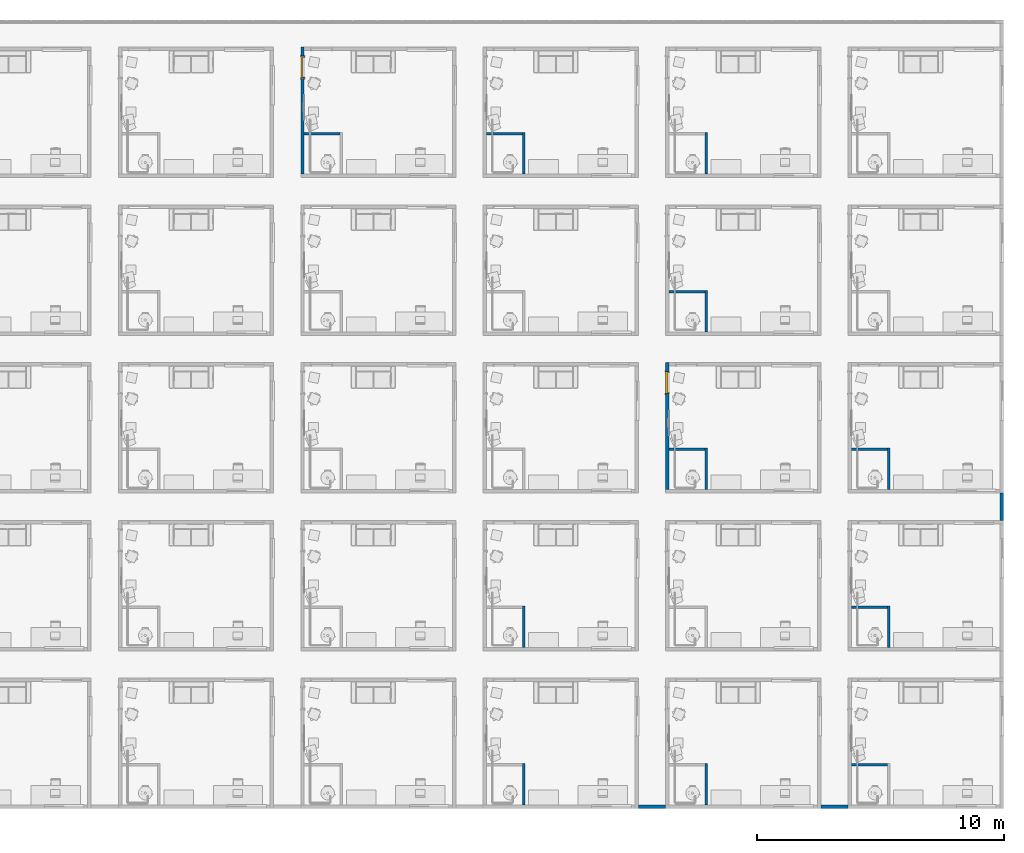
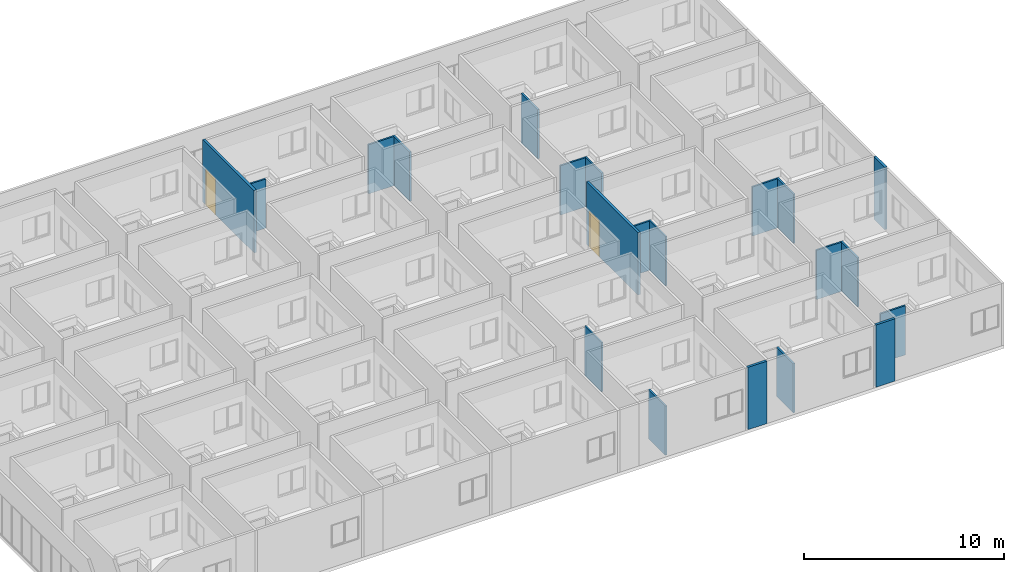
# One storey, part 9 of 72: 21 walls, 2 doors, 2 openings.
"""IFC4 building model written with IfcOpenShell, lengths in centimetres."""

from ifc_helpers import new_model, entity, si_unit, converted_unit, derived_unit, direction, frame, origin, place, context, subcontext, project, spatial, indexed_curve, outline, extrude, polygons, source, transform, mapped, material, type_object, type_shapes, element, fill, save


model = new_model("IFC4")

# Units and contexts
model_context = context("Model", 3, precision=0.001, world=origin(), true_north=direction((6.123233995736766e-17, 1.0)))
body_context = subcontext(model_context, "Body", "Model", "MODEL_VIEW")
ifc_project = project(units=[si_unit("LENGTHUNIT", "METRE", prefix="CENTI"), si_unit("AREAUNIT", "SQUARE_METRE"), si_unit("VOLUMEUNIT", "CUBIC_METRE"), derived_unit("THERMALTRANSMITTANCEUNIT", [(si_unit("MASSUNIT", "GRAM", prefix="KILO"), 1), (si_unit("THERMODYNAMICTEMPERATUREUNIT", "KELVIN"), -1), (si_unit("TIMEUNIT", "SECOND"), -3)]), converted_unit("PLANEANGLEUNIT", "DEGREE", entity("IfcPlaneAngleMeasure", 0.017453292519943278), si_unit("PLANEANGLEUNIT", "RADIAN"), dimensions=[0, 0, 0, 0, 0, 0, 0]), derived_unit("MASSDENSITYUNIT", [(si_unit("MASSUNIT", "GRAM", prefix="KILO"), 1), (si_unit("LENGTHUNIT", "METRE"), -3)]), derived_unit("VAPORPERMEABILITYUNIT", [(si_unit("LENGTHUNIT", "METRE"), -1), (si_unit("TIMEUNIT", "SECOND"), 1)]), derived_unit("USERDEFINED", [(si_unit("MASSUNIT", "GRAM", prefix="KILO"), 1), (si_unit("TIMEUNIT", "SECOND"), -3), (si_unit("LENGTHUNIT", "METRE"), 3), (si_unit("ELECTRICCURRENTUNIT", "AMPERE"), -2)]), derived_unit("SPECIFICHEATCAPACITYUNIT", [(si_unit("THERMODYNAMICTEMPERATUREUNIT", "KELVIN"), -1), (si_unit("LENGTHUNIT", "METRE"), 2), (si_unit("TIMEUNIT", "SECOND"), -2)]), derived_unit("THERMALCONDUCTANCEUNIT", [(si_unit("MASSUNIT", "GRAM", prefix="KILO"), 1), (si_unit("THERMODYNAMICTEMPERATUREUNIT", "KELVIN"), -1), (si_unit("TIMEUNIT", "SECOND"), -3), (si_unit("LENGTHUNIT", "METRE"), 1)]), si_unit("PRESSUREUNIT", "PASCAL"), derived_unit("MODULUSOFELASTICITYUNIT", [(si_unit("MASSUNIT", "GRAM", prefix="KILO"), 1), (si_unit("LENGTHUNIT", "METRE"), -1), (si_unit("TIMEUNIT", "SECOND"), -2)]), derived_unit("THERMALEXPANSIONCOEFFICIENTUNIT", [(si_unit("THERMODYNAMICTEMPERATUREUNIT", "KELVIN"), -1)])], contexts=[model_context])

# Site, building, storey
site_placement = place(None, origin())
site = spatial("IfcSite", under=ifc_project, at=site_placement, Name="Default", CompositionType="ELEMENT")
building_placement = place(site_placement, origin())
building = spatial("IfcBuilding", under=site, at=building_placement, Name="IDS Escape Game Building", CompositionType="ELEMENT")
storey_placement = place(building_placement, frame((0.0, 0.0, 800.0)))
storey = spatial("IfcBuildingStorey", under=building, at=storey_placement, Name="02_Second Floor", CompositionType="ELEMENT", Elevation=800.0)

# Wall, opening, door
ifc_material_1 = material(Name="ARC_FME.g2_Fg2 Masonry_00_gen_BERSnl", Category="g - klei")
wall_type_1 = type_object("IfcWallType", Name="Basic Wall:ARC_22.10_WA_LB_SB14_gen_BERSnl", PredefinedType="STANDARD")
wall_1_placement = place(storey_placement, frame((3690.0, 1803.0, 0.0), z_axis=(0.0, 0.0, 1.0), x_axis=(0.0, -1.0, 0.0)))
wall_1 = element("IfcWall", 1, at=wall_1_placement, inside=storey, type_object=wall_type_1, material=ifc_material_1, Name="Basic Wall:ARC_22.10_WA_LB_SB14_gen_BERSnl", ObjectType="Basic Wall:ARC_22.10_WA_LB_SB14_gen_BERSnl", PredefinedType="NOTDEFINED", context=body_context, shape_type="Tessellation", body=[
    polygons([(514.0000000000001, -6.999999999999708, 379.9999999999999), (0.0, -6.999999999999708, 379.9999999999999), (0.0, -6.999999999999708, -1.0828671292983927e-13), (35.999999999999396, -6.999999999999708, -1.0828671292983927e-13), (35.99999999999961, -6.999999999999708, 215.00000000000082), (125.99999999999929, -6.999999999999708, 215.00000000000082), (125.99999999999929, -6.999999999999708, -1.0828671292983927e-13), (514.0000000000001, -6.999999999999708, -1.0828671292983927e-13), (0.0, 7.000000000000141, 379.9999999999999), (14.000000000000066, 7.000000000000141, 379.9999999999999), (514.0000000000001, 7.000000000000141, 379.9999999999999), (514.0000000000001, 7.000000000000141, -1.0828671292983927e-13), (355.999999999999, 7.000000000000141, -1.0828671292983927e-13), (345.99999999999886, 7.000000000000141, -1.0828671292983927e-13), (125.99999999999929, 7.000000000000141, -1.0828671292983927e-13), (125.99999999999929, 7.000000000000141, 215.00000000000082), (35.999999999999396, 7.000000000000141, 215.00000000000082), (35.999999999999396, 7.000000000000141, -1.0828671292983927e-13), (14.000000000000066, 7.000000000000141, -1.0828671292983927e-13), (0.0, 7.000000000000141, -1.0828671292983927e-13)], [[[1, 2, 3, 4, 5, 6, 7, 8]], [[9, 10, 11, 12, 13, 14, 15, 16, 17, 18, 19, 20]], [[3, 20, 19, 18, 4]], [[2, 1, 11, 10, 9]], [[17, 5, 4, 18]], [[6, 16, 15, 7]], [[5, 17, 16, 6]], [[3, 2, 9, 20]], [[1, 8, 12, 11]], [[12, 8, 7, 15, 14, 13]]], closed=True),
])
opening_1_placement = place(wall_1_placement, frame((1803.0, -3690.0, 0.0), z_axis=(0.0, 0.0, 1.0), x_axis=(0.0, 1.0, 0.0)))
opening_1 = element("IfcOpeningElement", 2, at=opening_1_placement, cuts=wall_1, Name="Basic Wall:ARC_22.10_WA_LB_SB14_gen_BERSnl", PredefinedType="OPENING", context=body_context, shape_type="SweptSolid", body=[
    extrude(outline(indexed_curve([(-137.49999999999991, -44.99999999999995), (137.49999999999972, -44.99999999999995), (137.49999999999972, 44.99999999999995), (-137.49999999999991, 44.99999999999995), (-137.49999999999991, -44.99999999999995)], self_intersect=False)), frame((3600.0, 1722.0, 77.50000000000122), z_axis=(1.0, 0.0, 0.0), x_axis=(0.0, 0.0, 1.0)), (0.0, 0.0, 1.0), 166.00000000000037),
])
ifc_material_2 = material(Name="ARC_FME.i3_wood_00_gen_BERSnl", Category="i - hout")
door_type = type_object("IfcDoorType", Name="ARC_32.30_DO_WB_binnendeur enkel draaiend met void_gen_BERSnl:Fire Exit_830x2115_EI60", OperationType="SINGLE_SWING_RIGHT", PredefinedType="DOOR", material=ifc_material_2)
shared_shape = source(origin(), body_context, "Body", "Tessellation", [
    extrude(outline(indexed_curve([(-41.49999999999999, -3.749999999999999), (41.49999999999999, -3.749999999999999), (41.49999999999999, 3.75), (-41.49999999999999, 3.75), (-41.49999999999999, -3.749999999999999)], self_intersect=False)), frame((45.0, 79.24999999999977, 60.0), z_axis=(0.0, 0.0, 1.0), x_axis=(-1.0, 0.0, 0.0)), (0.0, 0.0, 1.0), 211.50000000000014),
    polygons([(88.99999999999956, 82.99999999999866, 59.999999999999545), (88.9999999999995, 67.99999999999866, 59.999999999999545), (94.99999999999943, 67.99999999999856, 59.999999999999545), (94.99999999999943, 66.49999999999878, 59.999999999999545), (84.99999999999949, 66.4999999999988, 59.999999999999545), (84.99999999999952, 75.49999999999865, 59.999999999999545), (86.49999999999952, 75.49999999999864, 59.999999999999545), (86.49999999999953, 84.49999999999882, 59.999999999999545), (94.99999999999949, 84.49999999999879, 59.999999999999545), (94.99999999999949, 82.99999999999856, 59.999999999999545), (88.99999999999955, 82.99999999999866, 274.0000000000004), (88.9999999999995, 67.99999999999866, 274.0000000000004), (0.9999999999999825, 67.99999999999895, 274.0000000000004), (0.9999999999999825, 67.99999999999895, 59.99999999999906), (-4.999999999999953, 67.99999999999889, 59.99999999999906), (-4.999999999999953, 67.99999999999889, 280.00000000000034), (94.99999999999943, 67.99999999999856, 280.00000000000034), (94.99999999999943, 66.49999999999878, 280.00000000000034), (-4.999999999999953, 66.4999999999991, 280.00000000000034), (-4.999999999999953, 66.4999999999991, 59.99999999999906), (4.999999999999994, 66.49999999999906, 59.99999999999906), (4.999999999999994, 66.49999999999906, 270.00000000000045), (84.99999999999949, 66.4999999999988, 270.00000000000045), (84.99999999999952, 75.49999999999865, 270.00000000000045), (5.000000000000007, 75.4999999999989, 270.00000000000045), (5.0, 75.4999999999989, 59.99999999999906), (3.5000000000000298, 75.4999999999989, 59.99999999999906), (3.500000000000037, 75.4999999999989, 271.50000000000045), (86.4999999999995, 75.49999999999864, 271.50000000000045), (86.49999999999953, 84.49999999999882, 271.50000000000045), (3.5000000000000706, 84.49999999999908, 271.50000000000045), (3.500000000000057, 84.49999999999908, 59.99999999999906), (-4.999999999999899, 84.4999999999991, 59.99999999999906), (-4.999999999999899, 84.4999999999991, 280.00000000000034), (94.99999999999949, 84.49999999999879, 280.00000000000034), (94.99999999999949, 82.99999999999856, 280.00000000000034), (-4.999999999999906, 82.99999999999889, 280.00000000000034), (-4.999999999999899, 82.99999999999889, 59.99999999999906), (1.0000000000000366, 82.99999999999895, 59.99999999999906), (1.0000000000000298, 82.99999999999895, 274.0000000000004)], [[[1, 2, 3, 4, 5, 6, 7, 8, 9, 10]], [[2, 1, 11, 12]], [[3, 2, 12, 13, 14, 15, 16, 17]], [[4, 3, 17, 18]], [[5, 4, 18, 19, 20, 21, 22, 23]], [[6, 5, 23, 24]], [[7, 6, 24, 25, 26, 27, 28, 29]], [[8, 7, 29, 30]], [[9, 8, 30, 31, 32, 33, 34, 35]], [[10, 9, 35, 36]], [[1, 10, 36, 37, 38, 39, 40, 11]], [[37, 34, 33, 38]], [[39, 38, 33, 32, 27, 26, 21, 20, 15, 14]], [[13, 40, 39, 14]], [[31, 28, 27, 32]], [[25, 22, 21, 26]], [[19, 16, 15, 20]], [[36, 35, 34, 37]], [[30, 29, 28, 31]], [[24, 23, 22, 25]], [[18, 17, 16, 19]], [[12, 11, 40, 13]]], closed=True),
])
type_shapes(door_type, [shared_shape])
door_1_placement = place(opening_1_placement, frame((3766.0, 1677.0, -60.0), z_axis=(0.0, 0.0, 1.0), x_axis=(0.0, 1.0, 0.0)))
door_1 = element("IfcDoor", 3, at=door_1_placement, inside=storey, type_object=door_type, material=ifc_material_2, Name="ARC_32.30_DO_WB_binnendeur enkel draaiend met void_gen_BERSnl:Fire Exit_830x2115_EI60", ObjectType="ARC_32.30_DO_WB_binnendeur enkel draaiend met void_gen_BERSnl:Fire Exit_830x2115_EI60", OverallHeight=274.99999999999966, OverallWidth=89.9999999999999, PredefinedType="DOOR", context=body_context, shape_type="MappedRepresentation", body=[
    mapped(shared_shape, transform((0.0, 0.0, 0.0), scale=1.0)),
])
fill(opening_1, door_1)

wall_2_placement = place(storey_placement, frame((2214.0, 3079.0, 0.0), z_axis=(0.0, 0.0, 1.0), x_axis=(0.0, -1.0, 0.0)))
wall_2 = element("IfcWall", 4, at=wall_2_placement, inside=storey, type_object=wall_type_1, material=ifc_material_1, Name="Basic Wall:ARC_22.10_WA_LB_SB14_gen_BERSnl", ObjectType="Basic Wall:ARC_22.10_WA_LB_SB14_gen_BERSnl", PredefinedType="NOTDEFINED", context=body_context, shape_type="Tessellation", body=[
    polygons([(513.9999999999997, -6.999999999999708, 379.9999999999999), (0.0, -6.999999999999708, 379.9999999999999), (0.0, -6.999999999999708, -1.0828671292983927e-13), (35.99999999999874, -6.999999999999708, -1.0828671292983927e-13), (35.99999999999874, -6.999999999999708, 215.00000000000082), (125.99999999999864, -6.999999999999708, 215.00000000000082), (125.99999999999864, -6.999999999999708, -1.0828671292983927e-13), (513.9999999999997, -6.999999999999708, -1.0828671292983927e-13), (0.0, 7.000000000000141, 379.9999999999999), (13.999999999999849, 7.000000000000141, 379.9999999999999), (513.9999999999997, 7.000000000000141, 379.9999999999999), (513.9999999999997, 7.000000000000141, -1.0828671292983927e-13), (355.99999999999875, 7.000000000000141, -1.0828671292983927e-13), (345.99999999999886, 7.000000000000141, -1.0828671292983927e-13), (125.99999999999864, 7.000000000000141, -1.0828671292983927e-13), (125.99999999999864, 7.000000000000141, 215.00000000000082), (35.99999999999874, 7.000000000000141, 215.00000000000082), (35.99999999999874, 7.000000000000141, -1.0828671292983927e-13), (13.999999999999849, 7.000000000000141, -1.0828671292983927e-13), (0.0, 7.000000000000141, -1.0828671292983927e-13)], [[[1, 2, 3, 4, 5, 6, 7, 8]], [[9, 10, 11, 12, 13, 14, 15, 16, 17, 18, 19, 20]], [[3, 20, 19, 18, 4]], [[2, 1, 11, 10, 9]], [[17, 5, 4, 18]], [[6, 16, 15, 7]], [[5, 17, 16, 6]], [[3, 2, 9, 20]], [[1, 8, 12, 11]], [[12, 8, 7, 15, 14, 13]]], closed=True),
])
opening_2_placement = place(wall_2_placement, frame((3079.0, -2214.0, 0.0), z_axis=(0.0, 0.0, 1.0), x_axis=(0.0, 1.0, 0.0)))
opening_2 = element("IfcOpeningElement", 5, at=opening_2_placement, cuts=wall_2, Name="Basic Wall:ARC_22.10_WA_LB_SB14_gen_BERSnl", PredefinedType="OPENING", context=body_context, shape_type="SweptSolid", body=[
    extrude(outline(indexed_curve([(-137.49999999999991, -44.99999999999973), (137.49999999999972, -44.99999999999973), (137.49999999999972, 45.00000000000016), (-137.49999999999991, 45.00000000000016), (-137.49999999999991, -44.99999999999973)], self_intersect=False)), frame((2124.0, 2998.0, 77.50000000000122), z_axis=(1.0, 0.0, 0.0), x_axis=(0.0, 0.0, 1.0)), (0.0, 0.0, 1.0), 166.00000000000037),
])
door_2_placement = place(opening_2_placement, frame((2290.0, 2953.0, -60.0), z_axis=(0.0, 0.0, 1.0), x_axis=(0.0, 1.0, 0.0)))
door_2 = element("IfcDoor", 6, at=door_2_placement, inside=storey, type_object=door_type, material=ifc_material_2, Name="ARC_32.30_DO_WB_binnendeur enkel draaiend met void_gen_BERSnl:Fire Exit_830x2115_EI60", ObjectType="ARC_32.30_DO_WB_binnendeur enkel draaiend met void_gen_BERSnl:Fire Exit_830x2115_EI60", OverallHeight=274.99999999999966, OverallWidth=89.9999999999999, PredefinedType="DOOR", context=body_context, shape_type="MappedRepresentation", body=[
    mapped(shared_shape, transform((0.0, 0.0, 0.0), scale=1.0)),
])
fill(opening_2, door_2)

# Walls
wall_3_placement = place(storey_placement, frame((3683.0, 6.0, 0.0), z_axis=(0.0, 0.0, 1.0), x_axis=(-1.0, 0.0, 0.0)))
element("IfcWall", 7, at=wall_3_placement, inside=storey, type_object=wall_type_1, material=ifc_material_1, Name="Basic Wall:ARC_22.10_WA_LB_SB14_gen_BERSnl", ObjectType="Basic Wall:ARC_22.10_WA_LB_SB14_gen_BERSnl", PredefinedType="NOTDEFINED", context=body_context, shape_type="SweptSolid", body=[
    extrude(outline(indexed_curve([(110.00000000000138, 7.000000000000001), (-2.2611003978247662e-14, 7.0), (2.2611003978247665e-14, -7.000000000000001), (110.00000000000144, -7.000000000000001), (110.00000000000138, 7.000000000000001)], self_intersect=False)), origin(), (0.0, 0.0, 1.0), 380.0000000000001),
])
wall_4_placement = place(storey_placement, frame((4421.0, 6.0, 0.0), z_axis=(0.0, 0.0, 1.0), x_axis=(-1.0, 0.0, 0.0)))
element("IfcWall", 8, at=wall_4_placement, inside=storey, type_object=wall_type_1, material=ifc_material_1, Name="Basic Wall:ARC_22.10_WA_LB_SB14_gen_BERSnl", ObjectType="Basic Wall:ARC_22.10_WA_LB_SB14_gen_BERSnl", PredefinedType="NOTDEFINED", context=body_context, shape_type="SweptSolid", body=[
    extrude(outline(indexed_curve([(109.99999999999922, 6.999999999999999), (-2.2611003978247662e-14, 7.0), (2.2611003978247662e-14, -6.999999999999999), (109.99999999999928, -6.999999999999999), (109.99999999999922, 6.999999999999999)], self_intersect=False)), origin(), (0.0, 0.0, 1.0), 380.0000000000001),
])
wall_5_placement = place(storey_placement, frame((5042.0, 1275.0, 0.0), z_axis=(0.0, 0.0, 1.0), x_axis=(0.0, -1.0, 0.0)))
element("IfcWall", 9, at=wall_5_placement, inside=storey, type_object=wall_type_1, material=ifc_material_1, Name="Basic Wall:ARC_22.10_WA_LB_SB14_gen_BERSnl", ObjectType="Basic Wall:ARC_22.10_WA_LB_SB14_gen_BERSnl", PredefinedType="NOTDEFINED", context=body_context, shape_type="SweptSolid", body=[
    extrude(outline(indexed_curve([(109.9999999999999, 7.000000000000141), (0.0, 7.000000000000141), (0.0, -7.000000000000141), (109.9999999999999, -7.000000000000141), (109.9999999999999, 7.000000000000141)], self_intersect=False)), origin(), (0.0, 0.0, 1.0), 380.0000000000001),
])
ifc_material_3 = material(Name="ARC_FME.r2_Plaster_white_gen_BERSnl", Category="r - klei, gips, magnesium en kunststof bindmiddelen")
wall_type_2 = type_object("IfcWallType", Name="Basic Wall:ARC_22.10_WA_LB_GPS10_gen_BERSnl", PredefinedType="STANDARD")
for number, where, z_axis, x_axis in (
    (10, (3109.0, 13.0, 0.0), (0.0, 0.0, 1.0), (0.0, 1.0, 0.0)),
    (11, (3847.0, 13.0, 0.0), (0.0, 0.0, 1.0), (0.0, 1.0, 0.0)),
):
    element("IfcWall", number, at=place(storey_placement, frame(where, z_axis=z_axis, x_axis=x_axis)), inside=storey, type_object=wall_type_2, material=ifc_material_3, Name="Basic Wall:ARC_22.10_WA_LB_GPS10_gen_BERSnl", ObjectType="Basic Wall:ARC_22.10_WA_LB_GPS10_gen_BERSnl", PredefinedType="NOTDEFINED", context=body_context, shape_type="SweptSolid", body=[
        extrude(outline(indexed_curve([(168.00000000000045, 4.9999999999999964), (-1.1881077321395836e-15, 5.0000000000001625), (-5.038721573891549e-16, -5.0000000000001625), (168.00000000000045, -5.000000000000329), (168.00000000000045, 4.9999999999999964)], self_intersect=False)), origin(), (0.0, 0.0, 1.0), 300.0),
    ])
wall_6_placement = place(storey_placement, frame((4580.0, 176.0, 0.0), z_axis=(0.0, 0.0, 1.0), x_axis=(-1.0, 0.0, 0.0)))
element("IfcWall", 12, at=wall_6_placement, inside=storey, type_object=wall_type_2, material=ifc_material_3, Name="Basic Wall:ARC_22.10_WA_LB_GPS10_gen_BERSnl", ObjectType="Basic Wall:ARC_22.10_WA_LB_GPS10_gen_BERSnl", PredefinedType="NOTDEFINED", context=body_context, shape_type="SweptSolid", body=[
    extrude(outline(indexed_curve([(144.99999999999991, 5.000000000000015), (-1.6380951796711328e-14, 5.0), (1.6380951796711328e-14, -5.0), (144.99999999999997, -4.999999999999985), (144.99999999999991, 5.000000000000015)], self_intersect=False)), origin(), (0.0, 0.0, 1.0), 300.0),
])
wall_7_placement = place(storey_placement, frame((3109.0, 651.0, 0.0), z_axis=(0.0, 0.0, 1.0), x_axis=(0.0, 1.0, 0.0)))
element("IfcWall", 13, at=wall_7_placement, inside=storey, type_object=wall_type_2, material=ifc_material_3, Name="Basic Wall:ARC_22.10_WA_LB_GPS10_gen_BERSnl", ObjectType="Basic Wall:ARC_22.10_WA_LB_GPS10_gen_BERSnl", PredefinedType="NOTDEFINED", context=body_context, shape_type="SweptSolid", body=[
    extrude(outline(indexed_curve([(168.00000000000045, 4.9999999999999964), (-7.956027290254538e-15, 5.0000000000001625), (7.956027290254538e-15, -5.0000000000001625), (168.00000000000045, -5.000000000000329), (168.00000000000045, 4.9999999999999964)], self_intersect=False)), origin(), (0.0, 0.0, 1.0), 300.0),
])
wall_8_placement = place(storey_placement, frame((4585.0, 651.0, 0.0), z_axis=(0.0, 0.0, 1.0), x_axis=(0.0, 1.0, 0.0)))
element("IfcWall", 14, at=wall_8_placement, inside=storey, type_object=wall_type_2, material=ifc_material_3, Name="Basic Wall:ARC_22.10_WA_LB_GPS10_gen_BERSnl", ObjectType="Basic Wall:ARC_22.10_WA_LB_GPS10_gen_BERSnl", PredefinedType="NOTDEFINED", context=body_context, shape_type="SweptSolid", body=[
    extrude(outline(indexed_curve([(168.00000000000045, 4.9999999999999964), (-7.95602729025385e-15, 4.999999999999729), (7.95602729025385e-15, -4.999999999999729), (168.00000000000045, -4.999999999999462), (168.00000000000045, 4.9999999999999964)], self_intersect=False)), origin(), (0.0, 0.0, 1.0), 300.0),
])
wall_9_placement = place(storey_placement, frame((4580.0, 814.0, 0.0), z_axis=(0.0, 0.0, 1.0), x_axis=(-1.0, 0.0, 0.0)))
element("IfcWall", 15, at=wall_9_placement, inside=storey, type_object=wall_type_2, material=ifc_material_3, Name="Basic Wall:ARC_22.10_WA_LB_GPS10_gen_BERSnl", ObjectType="Basic Wall:ARC_22.10_WA_LB_GPS10_gen_BERSnl", PredefinedType="NOTDEFINED", context=body_context, shape_type="SweptSolid", body=[
    extrude(outline(indexed_curve([(144.99999999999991, 4.99999999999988), (-1.6380951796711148e-14, 4.999999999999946), (1.6380951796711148e-14, -4.999999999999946), (144.99999999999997, -5.000000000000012), (144.99999999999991, 4.99999999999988)], self_intersect=False)), origin(), (0.0, 0.0, 1.0), 300.0),
])
wall_10_placement = place(storey_placement, frame((3847.0, 1289.0, 0.0), z_axis=(0.0, 0.0, 1.0), x_axis=(0.0, 1.0, 0.0)))
element("IfcWall", 16, at=wall_10_placement, inside=storey, type_object=wall_type_2, material=ifc_material_3, Name="Basic Wall:ARC_22.10_WA_LB_GPS10_gen_BERSnl", ObjectType="Basic Wall:ARC_22.10_WA_LB_GPS10_gen_BERSnl", PredefinedType="NOTDEFINED", context=body_context, shape_type="SweptSolid", body=[
    extrude(outline(indexed_curve([(168.0000000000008, 4.9999999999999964), (-7.956027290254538e-15, 5.0000000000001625), (7.956027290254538e-15, -5.0000000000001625), (168.0000000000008, -5.000000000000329), (168.0000000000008, 4.9999999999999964)], self_intersect=False)), origin(), (0.0, 0.0, 1.0), 300.0),
])
wall_11_placement = place(storey_placement, frame((3842.0, 1452.0, 0.0), z_axis=(0.0, 0.0, 1.0), x_axis=(-1.0, 0.0, 0.0)))
element("IfcWall", 17, at=wall_11_placement, inside=storey, type_object=wall_type_2, material=ifc_material_3, Name="Basic Wall:ARC_22.10_WA_LB_GPS10_gen_BERSnl", ObjectType="Basic Wall:ARC_22.10_WA_LB_GPS10_gen_BERSnl", PredefinedType="NOTDEFINED", context=body_context, shape_type="SweptSolid", body=[
    extrude(outline(indexed_curve([(144.99999999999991, 4.9999999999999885), (-1.6380951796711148e-14, 4.999999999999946), (1.6380951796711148e-14, -4.999999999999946), (144.99999999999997, -4.999999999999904), (144.99999999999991, 4.9999999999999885)], self_intersect=False)), origin(), (0.0, 0.0, 1.0), 300.0),
])
wall_12_placement = place(storey_placement, frame((4585.0, 1289.0, 0.0), z_axis=(0.0, 0.0, 1.0), x_axis=(0.0, 1.0, 0.0)))
element("IfcWall", 18, at=wall_12_placement, inside=storey, type_object=wall_type_2, material=ifc_material_3, Name="Basic Wall:ARC_22.10_WA_LB_GPS10_gen_BERSnl", ObjectType="Basic Wall:ARC_22.10_WA_LB_GPS10_gen_BERSnl", PredefinedType="NOTDEFINED", context=body_context, shape_type="SweptSolid", body=[
    extrude(outline(indexed_curve([(168.0000000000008, 4.9999999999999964), (-7.95602729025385e-15, 4.999999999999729), (7.95602729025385e-15, -4.999999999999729), (168.0000000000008, -4.999999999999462), (168.0000000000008, 4.9999999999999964)], self_intersect=False)), origin(), (0.0, 0.0, 1.0), 300.0),
])
wall_13_placement = place(storey_placement, frame((4580.0, 1452.0, 0.0), z_axis=(0.0, 0.0, 1.0), x_axis=(-1.0, 0.0, 0.0)))
element("IfcWall", 19, at=wall_13_placement, inside=storey, type_object=wall_type_2, material=ifc_material_3, Name="Basic Wall:ARC_22.10_WA_LB_GPS10_gen_BERSnl", ObjectType="Basic Wall:ARC_22.10_WA_LB_GPS10_gen_BERSnl", PredefinedType="NOTDEFINED", context=body_context, shape_type="SweptSolid", body=[
    extrude(outline(indexed_curve([(144.99999999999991, 4.9999999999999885), (-1.6380951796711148e-14, 4.999999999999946), (1.6380951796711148e-14, -4.999999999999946), (144.99999999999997, -4.999999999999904), (144.99999999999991, 4.9999999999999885)], self_intersect=False)), origin(), (0.0, 0.0, 1.0), 300.0),
])
wall_14_placement = place(storey_placement, frame((3847.0, 1927.0, 0.0), z_axis=(0.0, 0.0, 1.0), x_axis=(0.0, 1.0, 0.0)))
element("IfcWall", 20, at=wall_14_placement, inside=storey, type_object=wall_type_2, material=ifc_material_3, Name="Basic Wall:ARC_22.10_WA_LB_GPS10_gen_BERSnl", ObjectType="Basic Wall:ARC_22.10_WA_LB_GPS10_gen_BERSnl", PredefinedType="NOTDEFINED", context=body_context, shape_type="SweptSolid", body=[
    extrude(outline(indexed_curve([(168.00000000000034, 4.9999999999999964), (-7.956027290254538e-15, 5.0000000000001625), (7.956027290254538e-15, -5.0000000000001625), (168.00000000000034, -5.000000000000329), (168.00000000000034, 4.9999999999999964)], self_intersect=False)), origin(), (0.0, 0.0, 1.0), 300.0),
])
for number, where, z_axis, x_axis in (
    (21, (3842.0, 2090.0, 0.0), (0.0, 0.0, 1.0), (-1.0, 0.0, 0.0)),
    (22, (2366.0, 2728.0, 0.0), (0.0, 0.0, 1.0), (-1.0, 0.0, 0.0)),
):
    element("IfcWall", number, at=place(storey_placement, frame(where, z_axis=z_axis, x_axis=x_axis)), inside=storey, type_object=wall_type_2, material=ifc_material_3, Name="Basic Wall:ARC_22.10_WA_LB_GPS10_gen_BERSnl", ObjectType="Basic Wall:ARC_22.10_WA_LB_GPS10_gen_BERSnl", PredefinedType="NOTDEFINED", context=body_context, shape_type="SweptSolid", body=[
        extrude(outline(indexed_curve([(144.99999999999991, 5.000000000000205), (-1.6380951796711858e-14, 5.0000000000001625), (1.6380951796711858e-14, -5.0000000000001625), (144.99999999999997, -5.00000000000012), (144.99999999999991, 5.000000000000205)], self_intersect=False)), origin(), (0.0, 0.0, 1.0), 300.0),
    ])
wall_15_placement = place(storey_placement, frame((3109.0, 2565.0, 0.0), z_axis=(0.0, 0.0, 1.0), x_axis=(0.0, 1.0, 0.0)))
element("IfcWall", 23, at=wall_15_placement, inside=storey, type_object=wall_type_2, material=ifc_material_3, Name="Basic Wall:ARC_22.10_WA_LB_GPS10_gen_BERSnl", ObjectType="Basic Wall:ARC_22.10_WA_LB_GPS10_gen_BERSnl", PredefinedType="NOTDEFINED", context=body_context, shape_type="SweptSolid", body=[
    extrude(outline(indexed_curve([(168.00000000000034, 4.9999999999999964), (-7.956027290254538e-15, 5.0000000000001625), (7.956027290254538e-15, -5.0000000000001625), (168.00000000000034, -5.000000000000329), (168.00000000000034, 4.9999999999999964)], self_intersect=False)), origin(), (0.0, 0.0, 1.0), 300.0),
])
wall_16_placement = place(storey_placement, frame((3104.0, 2728.0, 0.0), z_axis=(0.0, 0.0, 1.0), x_axis=(-1.0, 0.0, 0.0)))
element("IfcWall", 24, at=wall_16_placement, inside=storey, type_object=wall_type_2, material=ifc_material_3, Name="Basic Wall:ARC_22.10_WA_LB_GPS10_gen_BERSnl", ObjectType="Basic Wall:ARC_22.10_WA_LB_GPS10_gen_BERSnl", PredefinedType="NOTDEFINED", context=body_context, shape_type="SweptSolid", body=[
    extrude(outline(indexed_curve([(144.99999999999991, 5.000000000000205), (-1.6380951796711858e-14, 5.0000000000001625), (1.6380951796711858e-14, -5.0000000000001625), (144.99999999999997, -5.00000000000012), (144.99999999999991, 5.000000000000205)], self_intersect=False)), origin(), (0.0, 0.0, 1.0), 300.0),
])
wall_17_placement = place(storey_placement, frame((3847.0, 2565.0, 0.0), z_axis=(0.0, 0.0, 1.0), x_axis=(0.0, 1.0, 0.0)))
element("IfcWall", 25, at=wall_17_placement, inside=storey, type_object=wall_type_2, material=ifc_material_3, Name="Basic Wall:ARC_22.10_WA_LB_GPS10_gen_BERSnl", ObjectType="Basic Wall:ARC_22.10_WA_LB_GPS10_gen_BERSnl", PredefinedType="NOTDEFINED", context=body_context, shape_type="SweptSolid", body=[
    extrude(outline(indexed_curve([(168.00000000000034, 4.9999999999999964), (-7.956027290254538e-15, 5.0000000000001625), (7.956027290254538e-15, -5.0000000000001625), (168.00000000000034, -5.000000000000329), (168.00000000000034, 4.9999999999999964)], self_intersect=False)), origin(), (0.0, 0.0, 1.0), 300.0),
])

save(model, "model.ifc")
